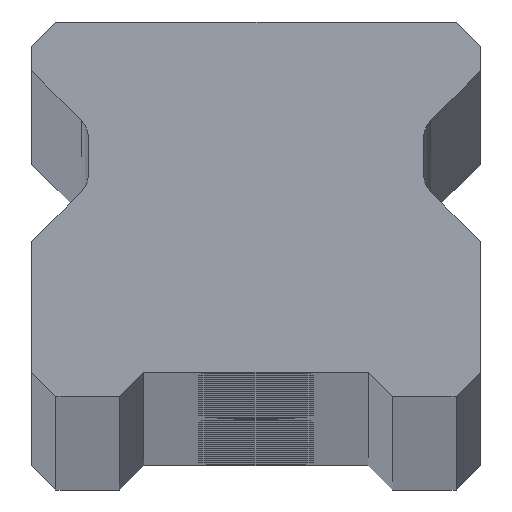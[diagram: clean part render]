
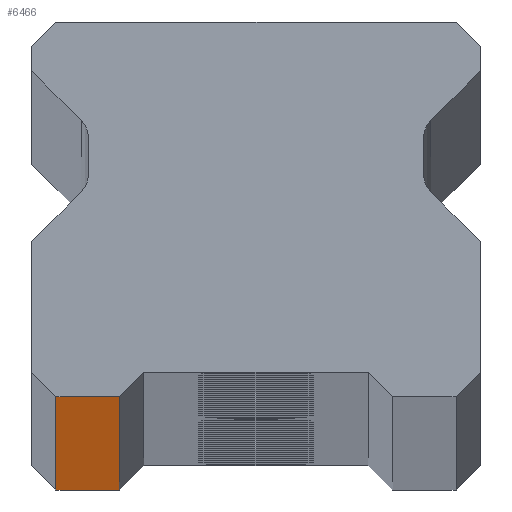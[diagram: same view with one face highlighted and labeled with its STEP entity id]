
A CAD part, top view. The second image highlights one B-rep face of the part: STEP entity #6466.
In plain terms, the highlighted planar face has unit normal (0, -1, 0).
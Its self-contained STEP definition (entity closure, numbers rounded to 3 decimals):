
#242 = CARTESIAN_POINT ( 'NONE',  ( -7., 0., 1370. ) ) ;
#432 = DIRECTION ( 'NONE',  ( 1., 0., 0. ) ) ;
#484 = EDGE_CURVE ( 'NONE', #7581, #4991, #8896, .T. ) ;
#522 = CARTESIAN_POINT ( 'NONE',  ( -10.25, 0., 1370. ) ) ;
#531 = FACE_OUTER_BOUND ( 'NONE', #1522, .T. ) ;
#540 = CARTESIAN_POINT ( 'NONE',  ( -7., 0., -1370. ) ) ;
#692 = VECTOR ( 'NONE', #7790, 1000. ) ;
#726 = CARTESIAN_POINT ( 'NONE',  ( -7., 0., -1370. ) ) ;
#1134 = VERTEX_POINT ( 'NONE', #242 ) ;
#1259 = EDGE_CURVE ( 'NONE', #4991, #5323, #3210, .T. ) ;
#1522 = EDGE_LOOP ( 'NONE', ( #2716, #2062, #6008, #4700 ) ) ;
#2062 = ORIENTED_EDGE ( 'NONE', *, *, #3972, .T. ) ;
#2716 = ORIENTED_EDGE ( 'NONE', *, *, #1259, .T. ) ;
#2935 = DIRECTION ( 'NONE',  ( 0., 0., -1. ) ) ;
#2941 = CARTESIAN_POINT ( 'NONE',  ( -10.25, 0., -1370. ) ) ;
#3210 = LINE ( 'NONE', #6148, #8980 ) ;
#3548 = EDGE_CURVE ( 'NONE', #7581, #1134, #5767, .T. ) ;
#3564 = DIRECTION ( 'NONE',  ( 0., 1., 0. ) ) ;
#3834 = VECTOR ( 'NONE', #432, 1000. ) ;
#3972 = EDGE_CURVE ( 'NONE', #5323, #1134, #5406, .T. ) ;
#4171 = DIRECTION ( 'NONE',  ( 1., 0., 0. ) ) ;
#4192 = PLANE ( 'NONE',  #6427 ) ;
#4700 = ORIENTED_EDGE ( 'NONE', *, *, #484, .T. ) ;
#4712 = CARTESIAN_POINT ( 'NONE',  ( 11.5, 0., 1370. ) ) ;
#4991 = VERTEX_POINT ( 'NONE', #2941 ) ;
#5323 = VERTEX_POINT ( 'NONE', #726 ) ;
#5406 = LINE ( 'NONE', #540, #692 ) ;
#5767 = LINE ( 'NONE', #4712, #3834 ) ;
#6008 = ORIENTED_EDGE ( 'NONE', *, *, #3548, .F. ) ;
#6148 = CARTESIAN_POINT ( 'NONE',  ( 11.5, 0., -1370. ) ) ;
#6427 = AXIS2_PLACEMENT_3D ( 'NONE', #9258, #3564, #7202 ) ;
#6466 = ADVANCED_FACE ( 'NONE', ( #531 ), #4192, .F. ) ;
#7202 = DIRECTION ( 'NONE',  ( -1., 0., 0. ) ) ;
#7581 = VERTEX_POINT ( 'NONE', #522 ) ;
#7790 = DIRECTION ( 'NONE',  ( 0., 0., 1. ) ) ;
#8896 = LINE ( 'NONE', #9359, #9236 ) ;
#8980 = VECTOR ( 'NONE', #4171, 1000. ) ;
#9236 = VECTOR ( 'NONE', #2935, 1000. ) ;
#9258 = CARTESIAN_POINT ( 'NONE',  ( 11.5, 0., 1370. ) ) ;
#9359 = CARTESIAN_POINT ( 'NONE',  ( -10.25, 0., 1370. ) ) ;
